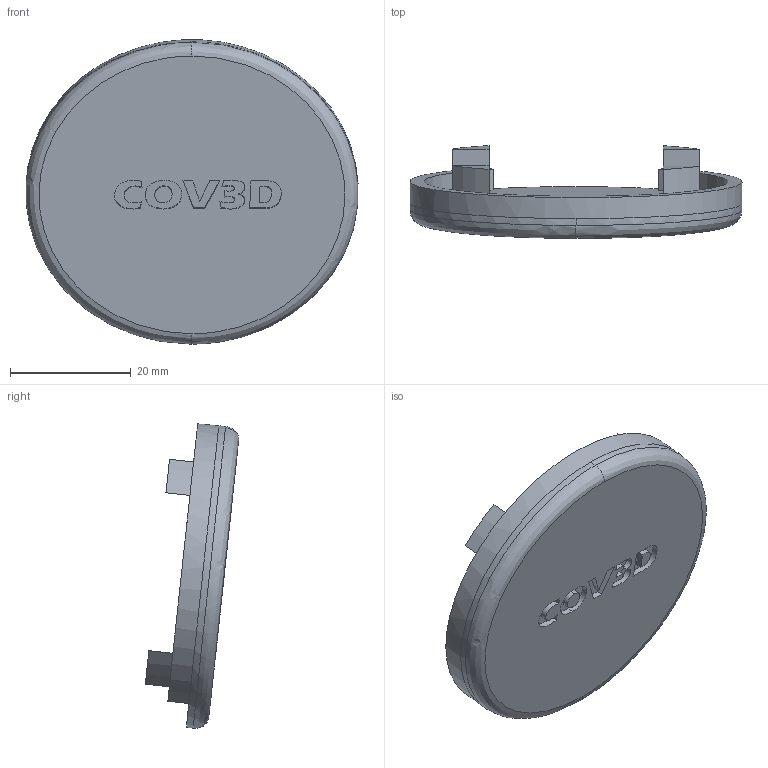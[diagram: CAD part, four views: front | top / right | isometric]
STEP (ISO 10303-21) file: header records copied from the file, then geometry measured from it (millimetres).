
FILE_DESCRIPTION(/* description */ (''),/* implementation_level */ '2;1');
FILE_NAME(/* name */ 'XS-CHI~1',/* time_stamp */ '2020-04-10T22:09:04+03:00',/* author */ (''),/* organization */ (''),/* preprocessor_version */ 'ST-DEVELOPER v16.5',/* originating_system */ '',/* authorisation */ '');
FILE_SCHEMA (('AUTOMOTIVE_DESIGN'));
Length unit declared in the file: millimetre
Products named in the file (1): Document
Bounding box: 54.92 x 15.44 x 50.35 mm (x, y, z)
Volume: 8917 mm3; surface area: 6390.2 mm2
Topology: 1 solids, 1 shells, 67 faces, 158 edges, 104 vertices
Faces by surface type: bspline 44, plane 23
Entity records: 2836 total; most frequent: CARTESIAN_POINT 1768, ORIENTED_EDGE 316, EDGE_CURVE 158, B_SPLINE_CURVE_WITH_KNOTS 131, VERTEX_POINT 104, EDGE_LOOP 78, ADVANCED_FACE 67, FACE_OUTER_BOUND 67
